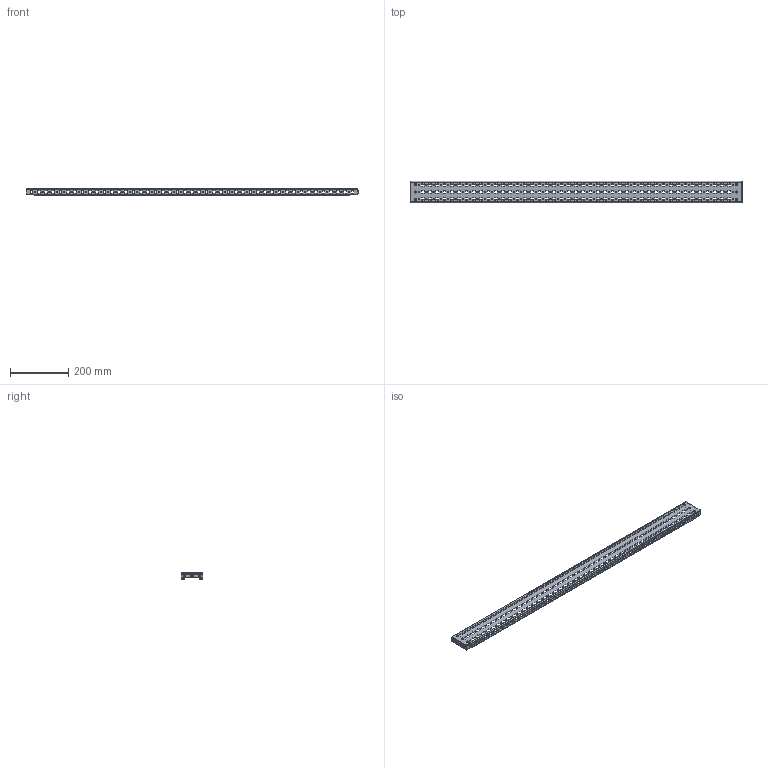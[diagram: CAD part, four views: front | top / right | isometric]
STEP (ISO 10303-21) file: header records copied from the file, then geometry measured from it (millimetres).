
FILE_DESCRIPTION(('STEP AP214'), '1');
FILE_NAME('Ðåéêà ïîïåðå÷íàÿ 1250õ74 ìì OptiBox M (2 øò) 419988 ÊÝÀÇ', '', ('UNSPECIFIED'), ('UNSPECIFIED'), 'C3D Converter', 'C3D Toolkit', '');
FILE_SCHEMA(('AUTOMOTIVE_DESIGN { 1 0 10303 214 3 1 1}'));
Length unit declared in the file: millimetre
Bounding box: 1137 x 74 x 23 mm (x, y, z)
Volume: 247574.9 mm3; surface area: 279615.8 mm2
Topology: 3 solids, 3 shells, 1267 faces, 3753 edges, 2492 vertices
Faces by surface type: plane 925, cylinder 342
Full cylindrical faces by diameter (mm): 4.6 x310, 7.3 x12
Entity records: 42759 total; most frequent: CARTESIAN_POINT 7191, ORIENTED_EDGE 6862, DIRECTION 6651, EDGE_CURVE 3431, LINE 2747, VECTOR 2747, EDGE_LOOP 2671, VERTEX_POINT 2492
